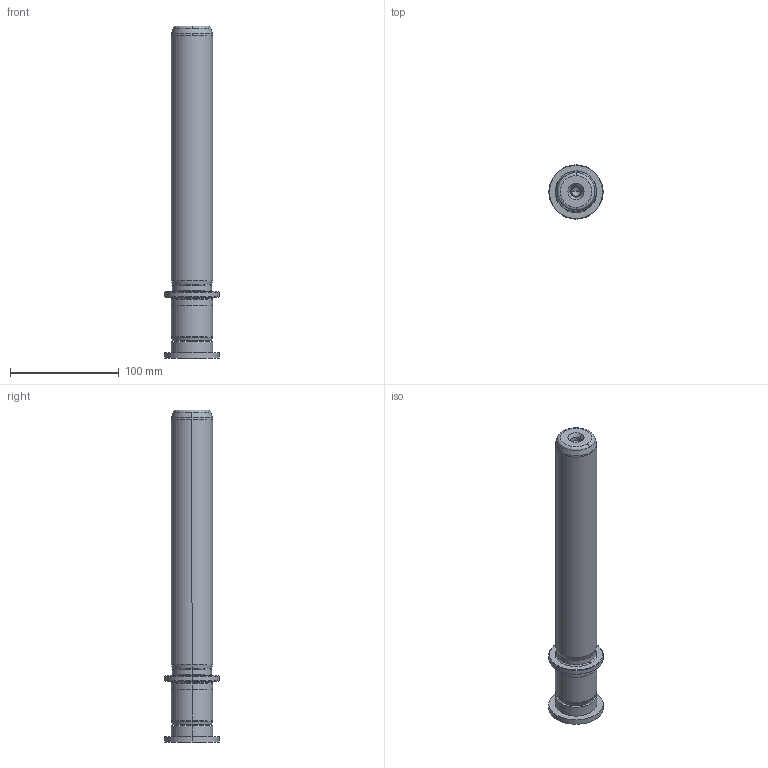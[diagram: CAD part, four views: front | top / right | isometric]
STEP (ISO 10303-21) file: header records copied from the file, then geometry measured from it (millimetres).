
FILE_DESCRIPTION((''),'2;1');
FILE_NAME('P22_038_250.stp','2009-02-16T09:16:55',(''),(''),'Mechanical Desktop 2009','Mechanical Desktop 2009',', , ');
FILE_SCHEMA(('CONFIG_CONTROL_DESIGN'));
Length unit declared in the file: millimetre
Products named in the file (2): Product; blmdl1
Assembly tree (1 placements, depth 2):
  Product
    blmdl1
Bounding box: 50 x 50 x 306 mm (x, y, z)
Volume: 348349.5 mm3; surface area: 48087 mm2
Topology: 3 solids, 3 shells, 99 faces, 237 edges, 149 vertices
Faces by surface type: cylinder 32, cone 28, plane 19, torus 10, bspline 10
Entity records: 3419 total; most frequent: CARTESIAN_POINT 923, DIRECTION 570, ORIENTED_EDGE 466, AXIS2_PLACEMENT_3D 246, EDGE_CURVE 233, CIRCLE 155, VERTEX_POINT 149, EDGE_LOOP 110
